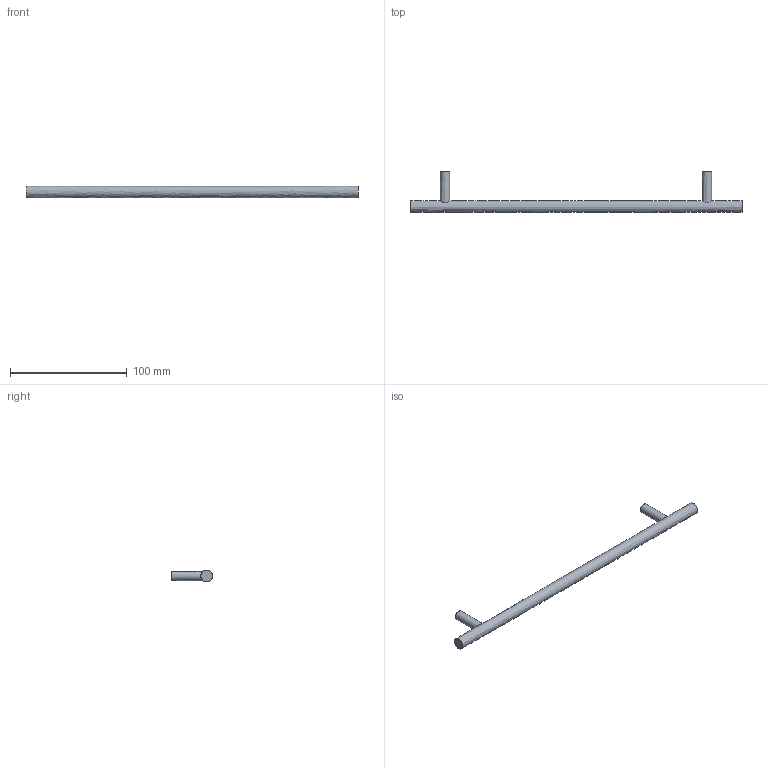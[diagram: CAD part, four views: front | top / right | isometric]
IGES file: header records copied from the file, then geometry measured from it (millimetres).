
Start section: Data from Parasolid IGES Translator 15.0.47, Copyright(c) 2006 Siemens P LM Software. All Rights Reserved.
Global section: file name: 9070984.igs; native system:  By UGS Corp.; preprocessor: XPlus GENERIC/IGES 3.0; author: Noname; organization: Noname; date: 20140122.181228; units: millimetre
Bounding box: 284 x 35 x 10 mm (x, y, z)
Surface area: 10673.5 mm2 (no closed solid volume)
Topology: 0 solids, 0 shells, 11 faces, 30 edges, 22 vertices
Faces by surface type: extrusion 6, revolution 5
